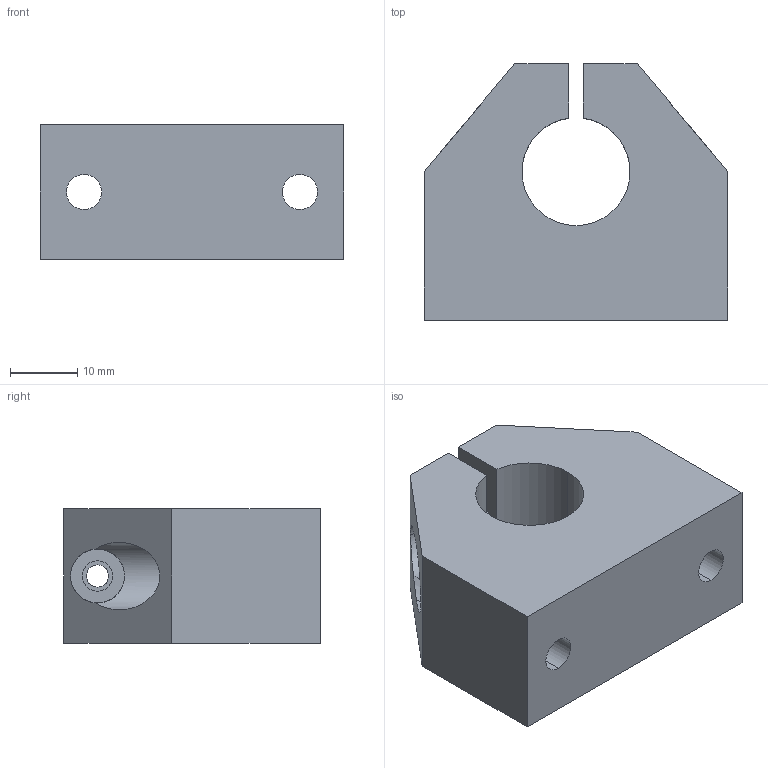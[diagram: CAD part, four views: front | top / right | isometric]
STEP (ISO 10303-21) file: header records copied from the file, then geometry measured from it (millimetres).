
FILE_DESCRIPTION (( 'STEP AP214' ), '1' );
FILE_NAME ('KWBC58-16.step', '2020-03-04T13:11:23', ( '' ), ( '' ), 'SwSTEP 2.0', 'SolidWorks 2019', '' );
FILE_SCHEMA (( 'AUTOMOTIVE_DESIGN' ));
Length unit declared in the file: millimetre
Products named in the file (1): KWBC58-16
Bounding box: 45 x 38 x 20 mm (x, y, z)
Volume: 22446.1 mm3; surface area: 8200.6 mm2
Topology: 1 solids, 1 shells, 31 faces, 81 edges, 54 vertices
Faces by surface type: cylinder 17, plane 14
Entity records: 1161 total; most frequent: CARTESIAN_POINT 280, ORIENTED_EDGE 162, DIRECTION 160, EDGE_CURVE 81, AXIS2_PLACEMENT_3D 58, VERTEX_POINT 54, LINE 44, VECTOR 44
